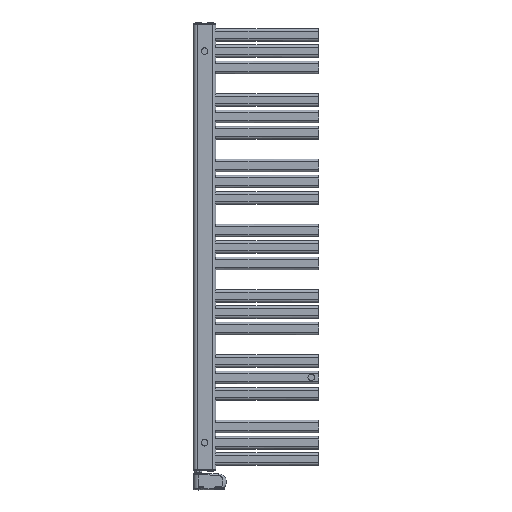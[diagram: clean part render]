
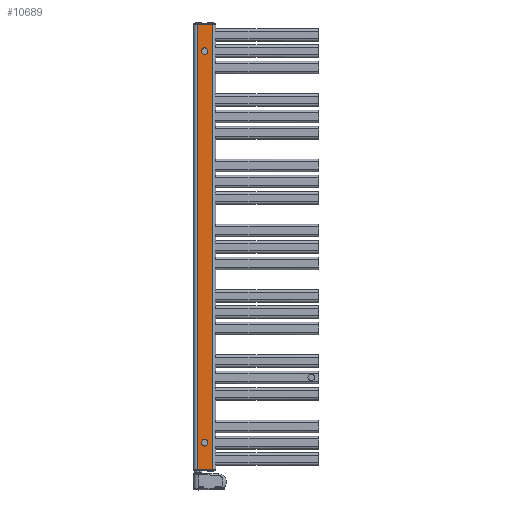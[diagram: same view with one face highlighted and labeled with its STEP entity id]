
A CAD part, top view. The second image highlights one B-rep face of the part: STEP entity #10689.
In plain terms, the highlighted planar face has unit normal (0, 0, 1).
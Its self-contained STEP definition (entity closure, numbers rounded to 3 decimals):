
#5911=DIRECTION('',(0.,1.,0.));
#5912=VECTOR('',#5911,1776.4);
#5913=CARTESIAN_POINT('',(75.,2.,15.));
#5914=LINE('',#5913,#5912);
#6583=DIRECTION('',(1.,0.,0.));
#6584=VECTOR('',#6583,60.);
#6585=CARTESIAN_POINT('',(15.,1778.4,15.));
#6586=LINE('',#6585,#6584);
#6590=DIRECTION('',(-1.,0.,0.));
#6591=VECTOR('',#6590,60.);
#6592=CARTESIAN_POINT('',(75.,2.,15.));
#6593=LINE('',#6592,#6591);
#6597=DIRECTION('',(0.,1.,0.));
#6598=VECTOR('',#6597,1776.4);
#6599=CARTESIAN_POINT('',(15.,2.,15.));
#6600=LINE('',#6599,#6598);
#6604=CARTESIAN_POINT('',(45.,1670.2,15.));
#6605=DIRECTION('',(0.,0.,1.));
#6606=DIRECTION('',(1.,0.,0.));
#6607=AXIS2_PLACEMENT_3D('',#6604,#6605,#6606);
#6612=CARTESIAN_POINT('',(45.,1670.2,15.));
#6613=DIRECTION('',(0.,0.,1.));
#6614=DIRECTION('',(-1.,0.,0.));
#6615=AXIS2_PLACEMENT_3D('',#6612,#6613,#6614);
#6620=CARTESIAN_POINT('',(45.,110.2,15.));
#6621=DIRECTION('',(0.,0.,1.));
#6622=DIRECTION('',(1.,0.,0.));
#6623=AXIS2_PLACEMENT_3D('',#6620,#6621,#6622);
#6628=CARTESIAN_POINT('',(45.,110.2,15.));
#6629=DIRECTION('',(0.,0.,1.));
#6630=DIRECTION('',(-1.,0.,0.));
#6631=AXIS2_PLACEMENT_3D('',#6628,#6629,#6630);
#9256=CARTESIAN_POINT('',(15.,1778.4,15.));
#9257=VERTEX_POINT('',#9256);
#9260=CARTESIAN_POINT('',(75.,1778.4,15.));
#9261=VERTEX_POINT('',#9260);
#9266=CARTESIAN_POINT('',(75.,2.,15.));
#9267=CARTESIAN_POINT('',(15.,2.,15.));
#9268=VERTEX_POINT('',#9266);
#9269=VERTEX_POINT('',#9267);
#9318=CARTESIAN_POINT('',(54.75,1670.2,15.));
#9319=CARTESIAN_POINT('',(35.25,1670.2,15.));
#9320=VERTEX_POINT('',#9318);
#9321=VERTEX_POINT('',#9319);
#9322=CARTESIAN_POINT('',(54.75,110.2,15.));
#9323=CARTESIAN_POINT('',(35.25,110.2,15.));
#9324=VERTEX_POINT('',#9322);
#9325=VERTEX_POINT('',#9323);
#10665=CARTESIAN_POINT('',(15.,0.,15.));
#10666=DIRECTION('',(0.,0.,1.));
#10667=DIRECTION('',(1.,0.,0.));
#10668=AXIS2_PLACEMENT_3D('',#10665,#10666,#10667);
#10669=PLANE('',#10668);
#10671=ORIENTED_EDGE('',*,*,#10670,.T.);
#10672=ORIENTED_EDGE('',*,*,#9795,.F.);
#10674=ORIENTED_EDGE('',*,*,#10673,.T.);
#10676=ORIENTED_EDGE('',*,*,#10675,.T.);
#10677=EDGE_LOOP('',(#10671,#10672,#10674,#10676));
#10678=FACE_OUTER_BOUND('',#10677,.F.);
#10679=ORIENTED_EDGE('',*,*,#10645,.T.);
#10680=ORIENTED_EDGE('',*,*,#10659,.T.);
#10681=EDGE_LOOP('',(#10679,#10680));
#10682=FACE_BOUND('',#10681,.F.);
#10684=ORIENTED_EDGE('',*,*,#10683,.T.);
#10686=ORIENTED_EDGE('',*,*,#10685,.T.);
#10687=EDGE_LOOP('',(#10684,#10686));
#10688=FACE_BOUND('',#10687,.F.);
#6608=CIRCLE('',#6607,9.75);
#6616=CIRCLE('',#6615,9.75);
#6624=CIRCLE('',#6623,9.75);
#6632=CIRCLE('',#6631,9.75);
#9795=EDGE_CURVE('',#9268,#9261,#5914,.T.);
#10645=EDGE_CURVE('',#9320,#9321,#6608,.T.);
#10659=EDGE_CURVE('',#9321,#9320,#6616,.T.);
#10670=EDGE_CURVE('',#9257,#9261,#6586,.T.);
#10673=EDGE_CURVE('',#9268,#9269,#6593,.T.);
#10675=EDGE_CURVE('',#9269,#9257,#6600,.T.);
#10683=EDGE_CURVE('',#9324,#9325,#6624,.T.);
#10685=EDGE_CURVE('',#9325,#9324,#6632,.T.);
#10689=ADVANCED_FACE('',(#10678,#10682,#10688),#10669,.T.);
